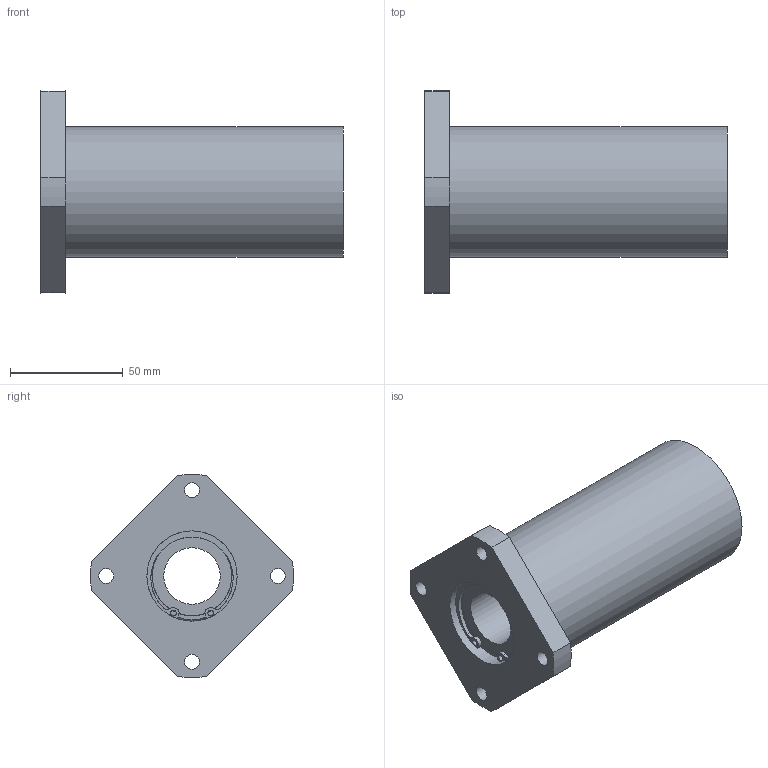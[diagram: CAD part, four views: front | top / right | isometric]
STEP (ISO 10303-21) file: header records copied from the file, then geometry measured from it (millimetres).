
FILE_DESCRIPTION((''),'2;1');
FILE_NAME('C:\Documents and Settings\土屋\My Documents\土屋移動用フォルダ\製品 (図面)\カタログ用3D\変換ファイル\OZAK_3D-CAD(STEP形式)\Part1.-Linear Bearings_ﾘﾆｱﾍﾞｱﾘﾝｸﾞ\09_Maintenance Free_ﾒｲﾝﾃﾅﾝｽﾌﾘｰ\L2017-09-21T17:50:05','2017-09-21T17:50:05',('y'),(''),'Autodesk Inventor 11','Autodesk Inventor 11','');
FILE_SCHEMA(('AUTOMOTIVE_DESIGN { 1 0 10303 214 1 1 1 1 }'));
Length unit declared in the file: millimetre
Products named in the file (1): LFWK25MF
Bounding box: 134 x 89.9 x 89.9 mm (x, y, z)
Volume: 304798.2 mm3; surface area: 48518.2 mm2
Topology: 1 solids, 3 shells, 71 faces, 204 edges, 126 vertices
Faces by surface type: plane 30, cylinder 25, bspline 14, torus 2
Full cylindrical faces by diameter (mm): 2.5 x2, 6.647 x4, 25 x1, 35.3 x2, 38 x2, 40 x4, 58 x1
Entity records: 2284 total; most frequent: CARTESIAN_POINT 488, DIRECTION 404, ORIENTED_EDGE 332, AXIS2_PLACEMENT_3D 180, EDGE_CURVE 166, CIRCLE 122, EDGE_LOOP 114, VERTEX_POINT 110
